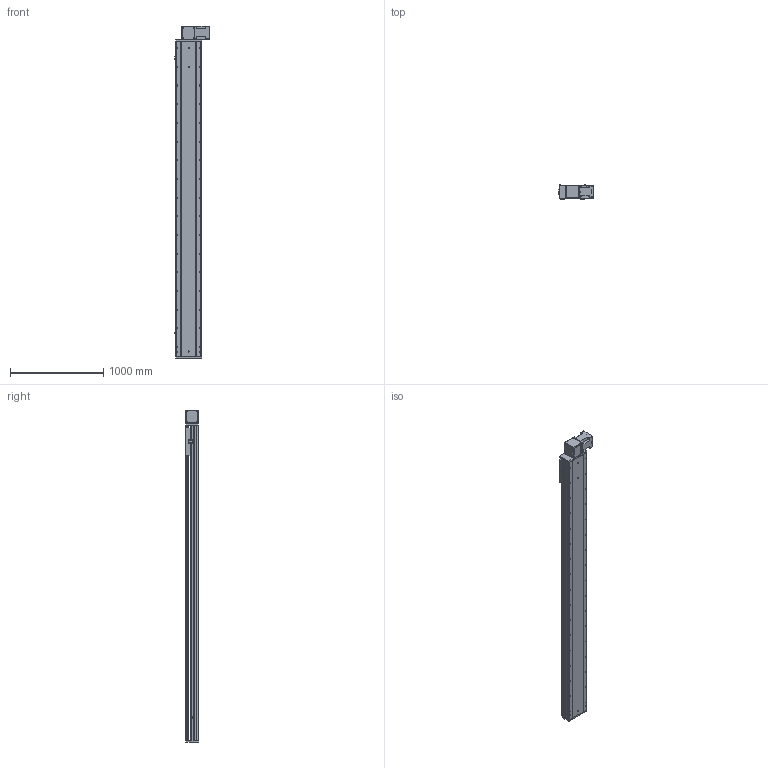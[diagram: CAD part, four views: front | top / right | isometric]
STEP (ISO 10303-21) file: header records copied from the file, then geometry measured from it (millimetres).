
FILE_DESCRIPTION (( 'STEP AP214' ), '1' );
FILE_NAME ('RTB28S-XX-2950-BL-M100-XX-C4.STEP', '2025-12-22T02:36:12', ( '' ), ( '' ), 'SwSTEP 2.0', 'SolidWorks 2018', '' );
FILE_SCHEMA (( 'AUTOMOTIVE_DESIGN' ));
Length unit declared in the file: millimetre
Products named in the file (4): RTB28S-GY-004^RTB28S-XX-XX-BL-M100-XX-C4; RTB28S-XX-2950-BL-M100-XX-C4; RTB28S-GY-011^RTB28S-XX-XX-BL-M100-XX-C4; RTB28S-GY-008^RTB28S-XX-XX-BL-M100-XX-C4
Assembly tree (3 placements, depth 2):
  RTB28S-XX-2950-BL-M100-XX-C4
    RTB28S-GY-011^RTB28S-XX-XX-BL-M100-XX-C4
    RTB28S-GY-004^RTB28S-XX-XX-BL-M100-XX-C4
    RTB28S-GY-008^RTB28S-XX-XX-BL-M100-XX-C4
Bounding box: 380.7 x 145 x 3557 mm (x, y, z)
Volume: 60316428.3 mm3; surface area: 5634036.7 mm2
Topology: 3 solids, 4 shells, 888 faces, 2388 edges, 1528 vertices
Faces by surface type: cylinder 439, plane 365, cone 80, torus 4
Entity records: 34373 total; most frequent: CARTESIAN_POINT 6502, DIRECTION 5082, ORIENTED_EDGE 4712, EDGE_CURVE 2356, AXIS2_PLACEMENT_3D 1876, VERTEX_POINT 1528, LINE 1330, VECTOR 1330
